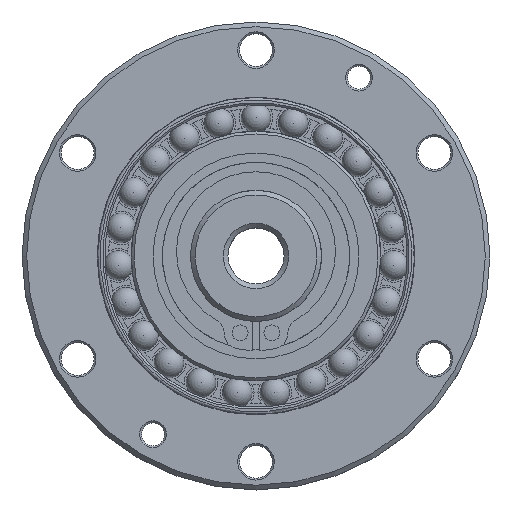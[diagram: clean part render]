
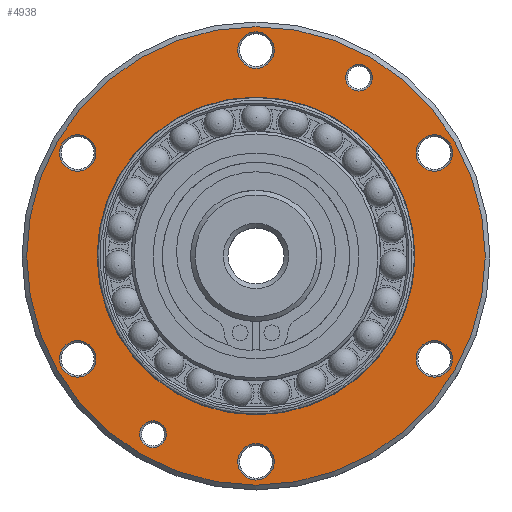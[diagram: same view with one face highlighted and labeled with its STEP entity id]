
A CAD part, top view. The second image highlights one B-rep face of the part: STEP entity #4938.
In plain terms, the highlighted planar face has unit normal (0, 0, 1).
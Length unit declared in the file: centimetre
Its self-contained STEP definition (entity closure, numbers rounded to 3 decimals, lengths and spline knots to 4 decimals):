
#670=PLANE($,#5738);
#823=FACE_BOUND($,#1587,.T.);
#824=FACE_BOUND($,#1588,.T.);
#825=FACE_BOUND($,#1589,.T.);
#826=FACE_BOUND($,#1590,.T.);
#827=FACE_BOUND($,#1591,.T.);
#828=FACE_BOUND($,#1592,.T.);
#829=FACE_BOUND($,#1593,.T.);
#830=FACE_BOUND($,#1594,.T.);
#831=FACE_BOUND($,#1595,.T.);
#832=FACE_BOUND($,#1596,.T.);
#1587=EDGE_LOOP($,(#4509));
#1588=EDGE_LOOP($,(#4510));
#1589=EDGE_LOOP($,(#4511));
#1590=EDGE_LOOP($,(#4512));
#1591=EDGE_LOOP($,(#4513));
#1592=EDGE_LOOP($,(#4514));
#1593=EDGE_LOOP($,(#4515));
#1594=EDGE_LOOP($,(#4516));
#1595=EDGE_LOOP($,(#4517));
#1596=EDGE_LOOP($,(#4518));
#2138=CIRCLE($,#5737,1.6982);
#2139=CIRCLE($,#5739,0.195);
#2140=CIRCLE($,#5740,0.195);
#2141=CIRCLE($,#5741,0.195);
#2142=CIRCLE($,#5742,0.195);
#2143=CIRCLE($,#5743,0.195);
#2144=CIRCLE($,#5744,0.195);
#2145=CIRCLE($,#5745,0.143);
#2146=CIRCLE($,#5746,0.143);
#2147=CIRCLE($,#5747,2.45);
#2568=VERTEX_POINT($,#9317);
#2569=VERTEX_POINT($,#9320);
#2570=VERTEX_POINT($,#9322);
#2571=VERTEX_POINT($,#9324);
#2572=VERTEX_POINT($,#9326);
#2573=VERTEX_POINT($,#9328);
#2574=VERTEX_POINT($,#9330);
#2575=VERTEX_POINT($,#9332);
#2576=VERTEX_POINT($,#9334);
#2577=VERTEX_POINT($,#9336);
#3198=EDGE_CURVE($,#2568,#2568,#2138,.T.);
#3199=EDGE_CURVE($,#2569,#2569,#2139,.T.);
#3200=EDGE_CURVE($,#2570,#2570,#2140,.T.);
#3201=EDGE_CURVE($,#2571,#2571,#2141,.T.);
#3202=EDGE_CURVE($,#2572,#2572,#2142,.T.);
#3203=EDGE_CURVE($,#2573,#2573,#2143,.T.);
#3204=EDGE_CURVE($,#2574,#2574,#2144,.T.);
#3205=EDGE_CURVE($,#2575,#2575,#2145,.T.);
#3206=EDGE_CURVE($,#2576,#2576,#2146,.T.);
#3207=EDGE_CURVE($,#2577,#2577,#2147,.T.);
#4509=ORIENTED_EDGE($,*,*,#3199,.F.);
#4510=ORIENTED_EDGE($,*,*,#3200,.F.);
#4511=ORIENTED_EDGE($,*,*,#3201,.F.);
#4512=ORIENTED_EDGE($,*,*,#3202,.F.);
#4513=ORIENTED_EDGE($,*,*,#3203,.F.);
#4514=ORIENTED_EDGE($,*,*,#3204,.F.);
#4515=ORIENTED_EDGE($,*,*,#3205,.F.);
#4516=ORIENTED_EDGE($,*,*,#3206,.F.);
#4517=ORIENTED_EDGE($,*,*,#3207,.F.);
#4518=ORIENTED_EDGE($,*,*,#3198,.T.);
#4938=ADVANCED_FACE($,(#823,#824,#825,#826,#827,#828,#829,#830,#831,#832),
#670,.T.);
#5737=AXIS2_PLACEMENT_3D($,#9318,#7453,#7454);
#5738=AXIS2_PLACEMENT_3D($,#9319,#7455,#7456);
#5739=AXIS2_PLACEMENT_3D($,#9321,#7457,#7458);
#5740=AXIS2_PLACEMENT_3D($,#9323,#7459,#7460);
#5741=AXIS2_PLACEMENT_3D($,#9325,#7461,#7462);
#5742=AXIS2_PLACEMENT_3D($,#9327,#7463,#7464);
#5743=AXIS2_PLACEMENT_3D($,#9329,#7465,#7466);
#5744=AXIS2_PLACEMENT_3D($,#9331,#7467,#7468);
#5745=AXIS2_PLACEMENT_3D($,#9333,#7469,#7470);
#5746=AXIS2_PLACEMENT_3D($,#9335,#7471,#7472);
#5747=AXIS2_PLACEMENT_3D($,#9337,#7473,#7474);
#7453=DIRECTION('center_axis',(0.,0.,-1.));
#7454=DIRECTION('ref_axis',(1.,0.,0.));
#7455=DIRECTION('center_axis',(0.,0.,1.));
#7456=DIRECTION('ref_axis',(1.,0.,0.));
#7457=DIRECTION('center_axis',(0.,0.,1.));
#7458=DIRECTION('ref_axis',(-1.,0.,0.));
#7459=DIRECTION('center_axis',(0.,0.,1.));
#7460=DIRECTION('ref_axis',(-1.,0.,0.));
#7461=DIRECTION('center_axis',(0.,0.,1.));
#7462=DIRECTION('ref_axis',(-1.,0.,0.));
#7463=DIRECTION('center_axis',(0.,0.,1.));
#7464=DIRECTION('ref_axis',(-1.,0.,0.));
#7465=DIRECTION('center_axis',(0.,0.,1.));
#7466=DIRECTION('ref_axis',(-1.,0.,0.));
#7467=DIRECTION('center_axis',(0.,0.,1.));
#7468=DIRECTION('ref_axis',(-1.,0.,0.));
#7469=DIRECTION('center_axis',(0.,0.,1.));
#7470=DIRECTION('ref_axis',(-1.,0.,0.));
#7471=DIRECTION('center_axis',(0.,0.,1.));
#7472=DIRECTION('ref_axis',(-1.,0.,0.));
#7473=DIRECTION('center_axis',(0.,0.,-1.));
#7474=DIRECTION('ref_axis',(0.,-1.,0.));
#9317=CARTESIAN_POINT('',(0.,-1.6982,0.));
#9318=CARTESIAN_POINT('Origin',(0.,0.,0.));
#9319=CARTESIAN_POINT('Origin',(0.,-1.714,0.));
#9320=CARTESIAN_POINT('',(0.195,-2.2,0.));
#9321=CARTESIAN_POINT('Origin',(0.,-2.2,0.));
#9322=CARTESIAN_POINT('',(-1.7103,-1.1,0.));
#9323=CARTESIAN_POINT('Origin',(-1.9053,-1.1,0.));
#9324=CARTESIAN_POINT('',(-1.7103,1.1,0.));
#9325=CARTESIAN_POINT('Origin',(-1.9053,1.1,0.));
#9326=CARTESIAN_POINT('',(0.195,2.2,0.));
#9327=CARTESIAN_POINT('Origin',(0.,2.2,0.));
#9328=CARTESIAN_POINT('',(2.1003,1.1,0.));
#9329=CARTESIAN_POINT('Origin',(1.9053,1.1,0.));
#9330=CARTESIAN_POINT('',(2.1003,-1.1,0.));
#9331=CARTESIAN_POINT('Origin',(1.9053,-1.1,0.));
#9332=CARTESIAN_POINT('',(-0.9571,-1.9053,0.));
#9333=CARTESIAN_POINT('Origin',(-1.1,-1.9053,0.));
#9334=CARTESIAN_POINT('',(1.243,1.9053,0.));
#9335=CARTESIAN_POINT('Origin',(1.1,1.9053,0.));
#9336=CARTESIAN_POINT('',(0.,2.45,0.));
#9337=CARTESIAN_POINT('Origin',(0.,0.,0.));
